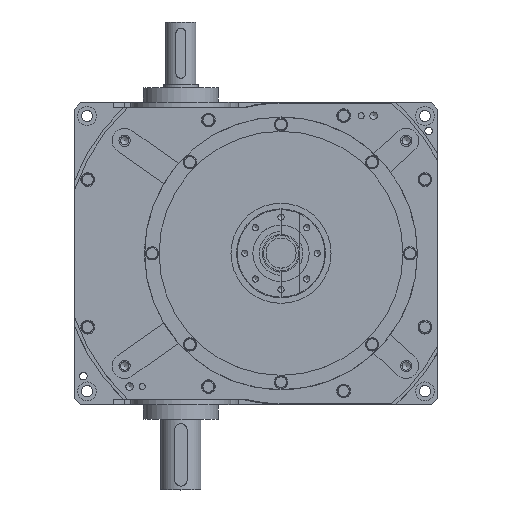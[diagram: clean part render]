
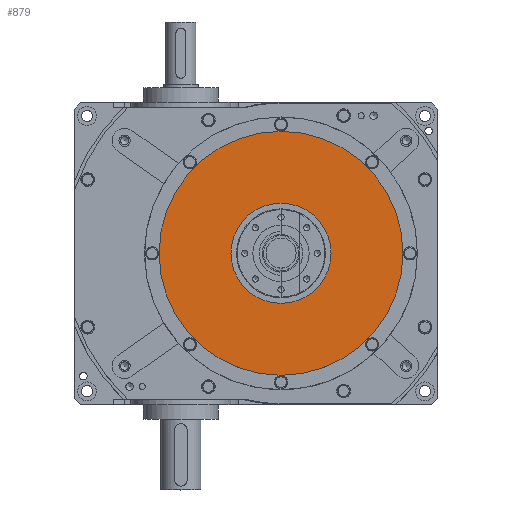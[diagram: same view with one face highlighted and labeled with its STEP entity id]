
A CAD part, top view. The second image highlights one B-rep face of the part: STEP entity #879.
In plain terms, the highlighted planar face has unit normal (0, 0, 1).
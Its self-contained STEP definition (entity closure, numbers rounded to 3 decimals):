
#879 = ADVANCED_FACE( '', ( #1858, #1859 ), #1860, .T. );
#1858 = FACE_OUTER_BOUND( '', #3648, .T. );
#1859 = FACE_BOUND( '', #3649, .T. );
#1860 = PLANE( '', #3650 );
#3648 = EDGE_LOOP( '', ( #6271 ) );
#3649 = EDGE_LOOP( '', ( #6272 ) );
#3650 = AXIS2_PLACEMENT_3D( '', #6273, #6274, #6275 );
#6271 = ORIENTED_EDGE( '', *, *, #8123, .T. );
#6272 = ORIENTED_EDGE( '', *, *, #8124, .F. );
#6273 = CARTESIAN_POINT( '', ( 0., 0., 25.5 ) );
#6274 = DIRECTION( '', ( 0., 0., 1. ) );
#6275 = DIRECTION( '', ( 1., 0., 0. ) );
#8123 = EDGE_CURVE( '', #9458, #9458, #9459, .T. );
#8124 = EDGE_CURVE( '', #9460, #9460, #9461, .T. );
#9458 = VERTEX_POINT( '', #12482 );
#9459 = CIRCLE( '', #12483, 97.5 );
#9460 = VERTEX_POINT( '', #12484 );
#9461 = CIRCLE( '', #12485, 40. );
#12482 = CARTESIAN_POINT( '', ( 97.5, 0., 25.5 ) );
#12483 = AXIS2_PLACEMENT_3D( '', #14464, #14465, #14466 );
#12484 = CARTESIAN_POINT( '', ( 40., 0., 25.5 ) );
#12485 = AXIS2_PLACEMENT_3D( '', #14467, #14468, #14469 );
#14464 = CARTESIAN_POINT( '', ( 0., 0., 25.5 ) );
#14465 = DIRECTION( '', ( 0., 0., 1. ) );
#14466 = DIRECTION( '', ( 1., 0., 0. ) );
#14467 = CARTESIAN_POINT( '', ( 0., 0., 25.5 ) );
#14468 = DIRECTION( '', ( 0., 0., 1. ) );
#14469 = DIRECTION( '', ( 1., 0., 0. ) );
